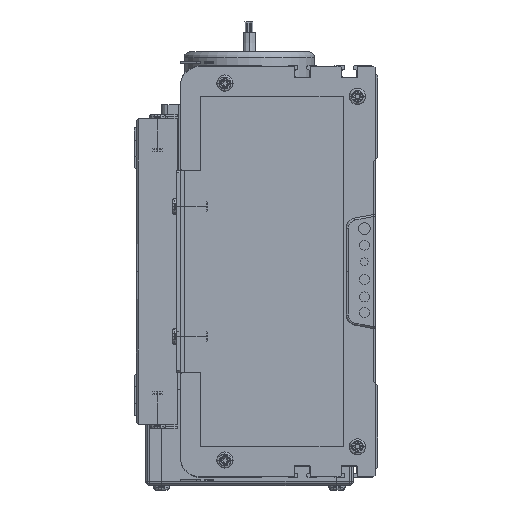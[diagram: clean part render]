
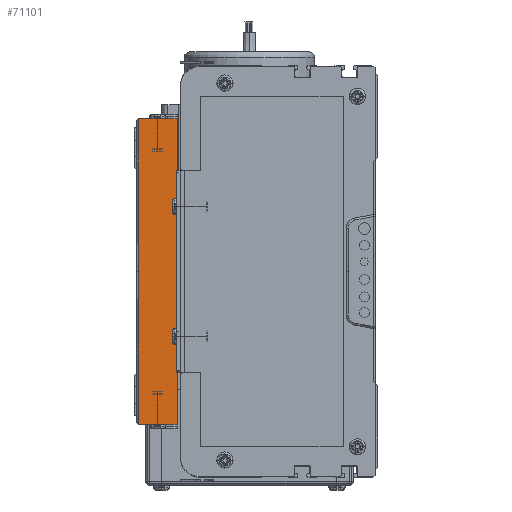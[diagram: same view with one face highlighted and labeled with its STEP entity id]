
A CAD part, left-side view. The second image highlights one B-rep face of the part: STEP entity #71101.
In plain terms, the highlighted planar face has unit normal (-1, 0, 0).
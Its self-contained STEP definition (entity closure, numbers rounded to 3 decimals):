
#70825 = VERTEX_POINT ( 'NONE', #162928 ) ;
#70857 = ORIENTED_EDGE ( 'NONE', *, *, #71072, .T. ) ;
#70860 = ORIENTED_EDGE ( 'NONE', *, *, #71011, .F. ) ;
#70968 = EDGE_CURVE ( 'NONE', #70997, #71195, #162893, .T. ) ;
#70969 = ORIENTED_EDGE ( 'NONE', *, *, #71007, .T. ) ;
#70997 = VERTEX_POINT ( 'NONE', #163738 ) ;
#71003 = VERTEX_POINT ( 'NONE', #163709 ) ;
#71004 = ORIENTED_EDGE ( 'NONE', *, *, #71175, .T. ) ;
#71007 = EDGE_CURVE ( 'NONE', #71003, #70997, #163375, .T. ) ;
#71011 = EDGE_CURVE ( 'NONE', #70825, #71018, #163386, .T. ) ;
#71018 = VERTEX_POINT ( 'NONE', #163628 ) ;
#71072 = EDGE_CURVE ( 'NONE', #71195, #71018, #163452, .T. ) ;
#71099 = ORIENTED_EDGE ( 'NONE', *, *, #70968, .T. ) ;
#71101 = ADVANCED_FACE ( 'NONE', ( #163419 ), #163315, .F. ) ;
#71167 = EDGE_LOOP ( 'NONE', ( #70860, #71004, #70969, #71099, #70857 ) ) ;
#71175 = EDGE_CURVE ( 'NONE', #70825, #71003, #164036, .T. ) ;
#71195 = VERTEX_POINT ( 'NONE', #164203 ) ;
#162892 = CARTESIAN_POINT ( 'NONE',  ( 0., 20., -75. ) ) ;
#162893 = LINE ( 'NONE', #162892, #163019 ) ;
#162928 = CARTESIAN_POINT ( 'NONE',  ( 0., 19., 75. ) ) ;
#163018 = DIRECTION ( 'NONE',  ( 0., -1., 0. ) ) ;
#163019 = VECTOR ( 'NONE', #163018, 1000. ) ;
#163307 = DIRECTION ( 'NONE',  ( 0., 0., -1. ) ) ;
#163309 = DIRECTION ( 'NONE',  ( 1., 0., 0. ) ) ;
#163310 = CARTESIAN_POINT ( 'NONE',  ( 0., 20., 0. ) ) ;
#163312 = AXIS2_PLACEMENT_3D ( 'NONE', #163310, #163309, #163307 ) ;
#163315 = PLANE ( 'NONE',  #163312 ) ;
#163373 = CARTESIAN_POINT ( 'NONE',  ( 0., 19., 0. ) ) ;
#163375 = LINE ( 'NONE', #163373, #163400 ) ;
#163384 = CARTESIAN_POINT ( 'NONE',  ( 0., 20., 75. ) ) ;
#163386 = LINE ( 'NONE', #163384, #163635 ) ;
#163399 = DIRECTION ( 'NONE',  ( 0., 0., -1. ) ) ;
#163400 = VECTOR ( 'NONE', #163399, 1000. ) ;
#163419 = FACE_OUTER_BOUND ( 'NONE', #71167, .T. ) ;
#163441 = DIRECTION ( 'NONE',  ( 0., 0., 1. ) ) ;
#163442 = VECTOR ( 'NONE', #163441, 1000. ) ;
#163444 = CARTESIAN_POINT ( 'NONE',  ( 0., 0., 0. ) ) ;
#163452 = LINE ( 'NONE', #163444, #163442 ) ;
#163628 = CARTESIAN_POINT ( 'NONE',  ( 0., 0., 75. ) ) ;
#163632 = DIRECTION ( 'NONE',  ( 0., -1., 0. ) ) ;
#163635 = VECTOR ( 'NONE', #163632, 1000. ) ;
#163709 = CARTESIAN_POINT ( 'NONE',  ( 0., 19., 0. ) ) ;
#163738 = CARTESIAN_POINT ( 'NONE',  ( 0., 19., -75. ) ) ;
#164036 = LINE ( 'NONE', #164231, #164229 ) ;
#164203 = CARTESIAN_POINT ( 'NONE',  ( 0., 0., -75. ) ) ;
#164228 = DIRECTION ( 'NONE',  ( 0., 0., -1. ) ) ;
#164229 = VECTOR ( 'NONE', #164228, 1000. ) ;
#164231 = CARTESIAN_POINT ( 'NONE',  ( 0., 19., 0. ) ) ;
